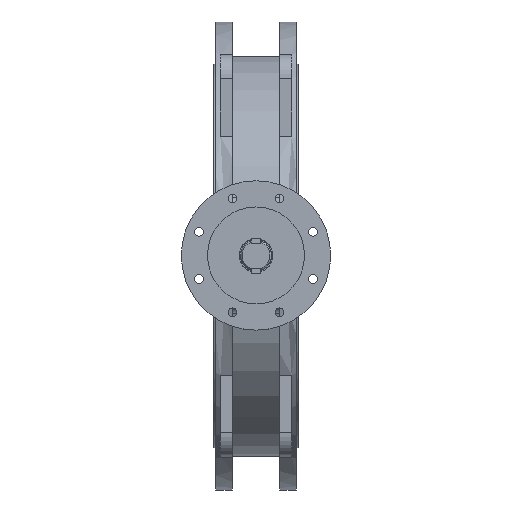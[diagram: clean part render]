
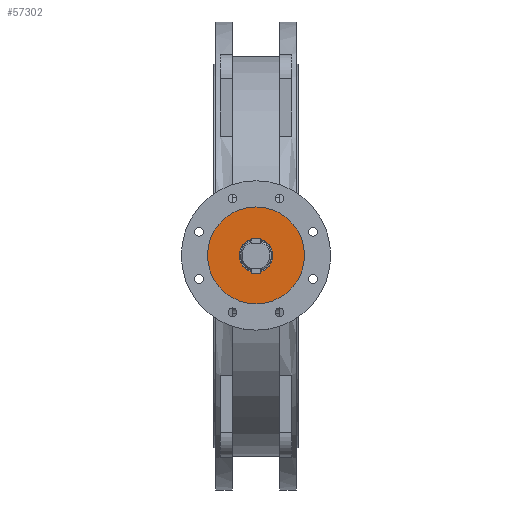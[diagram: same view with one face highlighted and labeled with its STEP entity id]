
A CAD part, top view. The second image highlights one B-rep face of the part: STEP entity #57302.
In plain terms, the highlighted planar face has unit normal (0, 0, 1).
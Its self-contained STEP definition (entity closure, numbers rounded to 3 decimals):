
#39066 = VERTEX_POINT('',#39067);
#39067 = CARTESIAN_POINT('',(94.453,-1230.813,
    893.173));
#39076 = CYLINDRICAL_SURFACE('',#39077,100.);
#39077 = AXIS2_PLACEMENT_3D('',#39078,#39079,#39080);
#39078 = CARTESIAN_POINT('',(-5.547,-1230.813,
    893.173));
#39079 = DIRECTION('',(0.,0.,1.));
#39080 = DIRECTION('',(1.,0.,0.));
#39088 = CYLINDRICAL_SURFACE('',#39089,100.);
#39089 = AXIS2_PLACEMENT_3D('',#39090,#39091,#39092);
#39090 = CARTESIAN_POINT('',(-5.547,-1230.813,
    893.173));
#39091 = DIRECTION('',(0.,0.,1.));
#39092 = DIRECTION('',(1.,0.,0.));
#39125 = VERTEX_POINT('',#39126);
#39126 = CARTESIAN_POINT('',(-105.547,-1230.813,
    893.173));
#39147 = EDGE_CURVE('',#39125,#39066,#39148,.T.);
#39148 = SURFACE_CURVE('',#39149,(#39154,#39161),.PCURVE_S1.);
#39149 = CIRCLE('',#39150,100.);
#39150 = AXIS2_PLACEMENT_3D('',#39151,#39152,#39153);
#39151 = CARTESIAN_POINT('',(-5.547,-1230.813,
    893.173));
#39152 = DIRECTION('',(0.,0.,1.));
#39153 = DIRECTION('',(1.,0.,0.));
#39154 = PCURVE('',#39076,#39155);
#39155 = DEFINITIONAL_REPRESENTATION('',(#39156),#39160);
#39156 = LINE('',#39157,#39158);
#39157 = CARTESIAN_POINT('',(0.,0.));
#39158 = VECTOR('',#39159,1.);
#39159 = DIRECTION('',(1.,0.));
#39160 = ( GEOMETRIC_REPRESENTATION_CONTEXT(2) 
PARAMETRIC_REPRESENTATION_CONTEXT() REPRESENTATION_CONTEXT('2D SPACE',''
  ) );
#39161 = PCURVE('',#39162,#39167);
#39162 = PLANE('',#39163);
#39163 = AXIS2_PLACEMENT_3D('',#39164,#39165,#39166);
#39164 = CARTESIAN_POINT('',(-5.547,-1230.813,
    893.173));
#39165 = DIRECTION('',(0.,0.,1.));
#39166 = DIRECTION('',(1.,0.,0.));
#39167 = DEFINITIONAL_REPRESENTATION('',(#39168),#39172);
#39168 = CIRCLE('',#39169,100.);
#39169 = AXIS2_PLACEMENT_2D('',#39170,#39171);
#39170 = CARTESIAN_POINT('',(0.,0.));
#39171 = DIRECTION('',(1.,0.));
#39172 = ( GEOMETRIC_REPRESENTATION_CONTEXT(2) 
PARAMETRIC_REPRESENTATION_CONTEXT() REPRESENTATION_CONTEXT('2D SPACE',''
  ) );
#46078 = VERTEX_POINT('',#46079);
#46079 = CARTESIAN_POINT('',(29.453,-1230.813,
    893.173));
#46086 = CYLINDRICAL_SURFACE('',#46087,35.);
#46087 = AXIS2_PLACEMENT_3D('',#46088,#46089,#46090);
#46088 = CARTESIAN_POINT('',(-5.547,-1230.813,
    -307.827));
#46089 = DIRECTION('',(0.,0.,1.));
#46090 = DIRECTION('',(1.,0.,0.));
#46098 = CYLINDRICAL_SURFACE('',#46099,35.);
#46099 = AXIS2_PLACEMENT_3D('',#46100,#46101,#46102);
#46100 = CARTESIAN_POINT('',(-5.547,-1230.813,
    -307.827));
#46101 = DIRECTION('',(0.,0.,1.));
#46102 = DIRECTION('',(1.,0.,0.));
#46110 = EDGE_CURVE('',#46078,#46111,#46113,.T.);
#46111 = VERTEX_POINT('',#46112);
#46112 = CARTESIAN_POINT('',(-40.547,-1230.813,
    893.173));
#46113 = SURFACE_CURVE('',#46114,(#46119,#46126),.PCURVE_S1.);
#46114 = CIRCLE('',#46115,35.);
#46115 = AXIS2_PLACEMENT_3D('',#46116,#46117,#46118);
#46116 = CARTESIAN_POINT('',(-5.547,-1230.813,
    893.173));
#46117 = DIRECTION('',(0.,0.,-1.));
#46118 = DIRECTION('',(1.,0.,0.));
#46119 = PCURVE('',#46086,#46120);
#46120 = DEFINITIONAL_REPRESENTATION('',(#46121),#46125);
#46121 = LINE('',#46122,#46123);
#46122 = CARTESIAN_POINT('',(6.283,1201.));
#46123 = VECTOR('',#46124,1.);
#46124 = DIRECTION('',(-1.,0.));
#46125 = ( GEOMETRIC_REPRESENTATION_CONTEXT(2) 
PARAMETRIC_REPRESENTATION_CONTEXT() REPRESENTATION_CONTEXT('2D SPACE',''
  ) );
#46126 = PCURVE('',#39162,#46127);
#46127 = DEFINITIONAL_REPRESENTATION('',(#46128),#46136);
#46128 = ( BOUNDED_CURVE() B_SPLINE_CURVE(2,(#46129,#46130,#46131,#46132
    ,#46133,#46134,#46135),.UNSPECIFIED.,.T.,.F.) 
B_SPLINE_CURVE_WITH_KNOTS((1,2,2,2,2,1),(-2.094,0.,
    2.094,4.189,6.283,8.378),
.UNSPECIFIED.) CURVE() GEOMETRIC_REPRESENTATION_ITEM() 
RATIONAL_B_SPLINE_CURVE((1.,0.5,1.,0.5,1.,0.5,1.)) REPRESENTATION_ITEM(
  '') );
#46129 = CARTESIAN_POINT('',(35.,0.));
#46130 = CARTESIAN_POINT('',(35.,-60.622));
#46131 = CARTESIAN_POINT('',(-17.5,-30.311));
#46132 = CARTESIAN_POINT('',(-70.,0.));
#46133 = CARTESIAN_POINT('',(-17.5,30.311));
#46134 = CARTESIAN_POINT('',(35.,60.622));
#46135 = CARTESIAN_POINT('',(35.,0.));
#46136 = ( GEOMETRIC_REPRESENTATION_CONTEXT(2) 
PARAMETRIC_REPRESENTATION_CONTEXT() REPRESENTATION_CONTEXT('2D SPACE',''
  ) );
#46966 = EDGE_CURVE('',#46111,#46078,#46967,.T.);
#46967 = SURFACE_CURVE('',#46968,(#46973,#46980),.PCURVE_S1.);
#46968 = CIRCLE('',#46969,35.);
#46969 = AXIS2_PLACEMENT_3D('',#46970,#46971,#46972);
#46970 = CARTESIAN_POINT('',(-5.547,-1230.813,
    893.173));
#46971 = DIRECTION('',(0.,0.,-1.));
#46972 = DIRECTION('',(1.,0.,0.));
#46973 = PCURVE('',#46098,#46974);
#46974 = DEFINITIONAL_REPRESENTATION('',(#46975),#46979);
#46975 = LINE('',#46976,#46977);
#46976 = CARTESIAN_POINT('',(6.283,1201.));
#46977 = VECTOR('',#46978,1.);
#46978 = DIRECTION('',(-1.,0.));
#46979 = ( GEOMETRIC_REPRESENTATION_CONTEXT(2) 
PARAMETRIC_REPRESENTATION_CONTEXT() REPRESENTATION_CONTEXT('2D SPACE',''
  ) );
#46980 = PCURVE('',#39162,#46981);
#46981 = DEFINITIONAL_REPRESENTATION('',(#46982),#46990);
#46982 = ( BOUNDED_CURVE() B_SPLINE_CURVE(2,(#46983,#46984,#46985,#46986
    ,#46987,#46988,#46989),.UNSPECIFIED.,.T.,.F.) 
B_SPLINE_CURVE_WITH_KNOTS((1,2,2,2,2,1),(-2.094,0.,
    2.094,4.189,6.283,8.378),
.UNSPECIFIED.) CURVE() GEOMETRIC_REPRESENTATION_ITEM() 
RATIONAL_B_SPLINE_CURVE((1.,0.5,1.,0.5,1.,0.5,1.)) REPRESENTATION_ITEM(
  '') );
#46983 = CARTESIAN_POINT('',(35.,0.));
#46984 = CARTESIAN_POINT('',(35.,-60.622));
#46985 = CARTESIAN_POINT('',(-17.5,-30.311));
#46986 = CARTESIAN_POINT('',(-70.,0.));
#46987 = CARTESIAN_POINT('',(-17.5,30.311));
#46988 = CARTESIAN_POINT('',(35.,60.622));
#46989 = CARTESIAN_POINT('',(35.,0.));
#46990 = ( GEOMETRIC_REPRESENTATION_CONTEXT(2) 
PARAMETRIC_REPRESENTATION_CONTEXT() REPRESENTATION_CONTEXT('2D SPACE',''
  ) );
#57302 = ADVANCED_FACE('',(#57303,#57328),#39162,.T.);
#57303 = FACE_BOUND('',#57304,.T.);
#57304 = EDGE_LOOP('',(#57305,#57327));
#57305 = ORIENTED_EDGE('',*,*,#57306,.T.);
#57306 = EDGE_CURVE('',#39066,#39125,#57307,.T.);
#57307 = SURFACE_CURVE('',#57308,(#57313,#57320),.PCURVE_S1.);
#57308 = CIRCLE('',#57309,100.);
#57309 = AXIS2_PLACEMENT_3D('',#57310,#57311,#57312);
#57310 = CARTESIAN_POINT('',(-5.547,-1230.813,
    893.173));
#57311 = DIRECTION('',(0.,0.,1.));
#57312 = DIRECTION('',(1.,0.,0.));
#57313 = PCURVE('',#39162,#57314);
#57314 = DEFINITIONAL_REPRESENTATION('',(#57315),#57319);
#57315 = CIRCLE('',#57316,100.);
#57316 = AXIS2_PLACEMENT_2D('',#57317,#57318);
#57317 = CARTESIAN_POINT('',(0.,0.));
#57318 = DIRECTION('',(1.,0.));
#57319 = ( GEOMETRIC_REPRESENTATION_CONTEXT(2) 
PARAMETRIC_REPRESENTATION_CONTEXT() REPRESENTATION_CONTEXT('2D SPACE',''
  ) );
#57320 = PCURVE('',#39088,#57321);
#57321 = DEFINITIONAL_REPRESENTATION('',(#57322),#57326);
#57322 = LINE('',#57323,#57324);
#57323 = CARTESIAN_POINT('',(0.,0.));
#57324 = VECTOR('',#57325,1.);
#57325 = DIRECTION('',(1.,0.));
#57326 = ( GEOMETRIC_REPRESENTATION_CONTEXT(2) 
PARAMETRIC_REPRESENTATION_CONTEXT() REPRESENTATION_CONTEXT('2D SPACE',''
  ) );
#57327 = ORIENTED_EDGE('',*,*,#39147,.T.);
#57328 = FACE_BOUND('',#57329,.T.);
#57329 = EDGE_LOOP('',(#57330,#57331));
#57330 = ORIENTED_EDGE('',*,*,#46110,.T.);
#57331 = ORIENTED_EDGE('',*,*,#46966,.T.);
